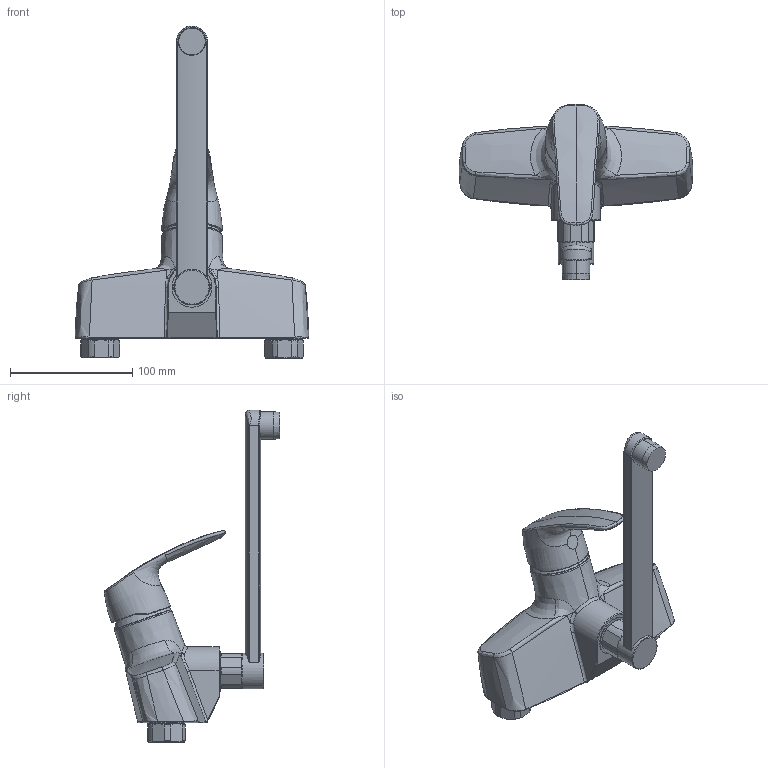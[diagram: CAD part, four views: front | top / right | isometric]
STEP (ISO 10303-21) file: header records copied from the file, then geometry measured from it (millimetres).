
FILE_DESCRIPTION (( 'STEP AP203' ), '1' );
FILE_NAME ('1036-104(2022)+1036-105(2022).STEP', '2022-02-21T09:35:14', ( '' ), ( '' ), 'SwSTEP 2.0', 'SolidWorks 2016', '' );
FILE_SCHEMA (( 'CONFIG_CONTROL_DESIGN' ));
Length unit declared in the file: millimetre
Products named in the file (1): 1036-104(2022)+1036-105(2022)
Bounding box: 191.05 x 143.6 x 271.45 mm (x, y, z)
Volume: 740605.3 mm3; surface area: 82819.3 mm2
Topology: 1 solids, 1 shells, 263 faces, 638 edges, 393 vertices
Faces by surface type: bspline 99, cylinder 63, plane 51, cone 48, torus 2
Entity records: 21381 total; most frequent: CARTESIAN_POINT 15984, ORIENTED_EDGE 1276, DIRECTION 873, EDGE_CURVE 638, VERTEX_POINT 393, AXIS2_PLACEMENT_3D 374, B_SPLINE_CURVE_WITH_KNOTS 292, EDGE_LOOP 279
